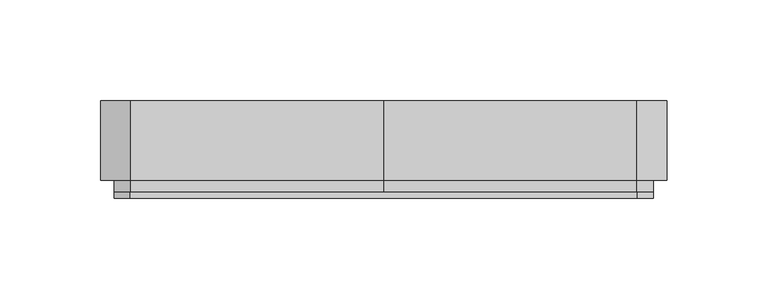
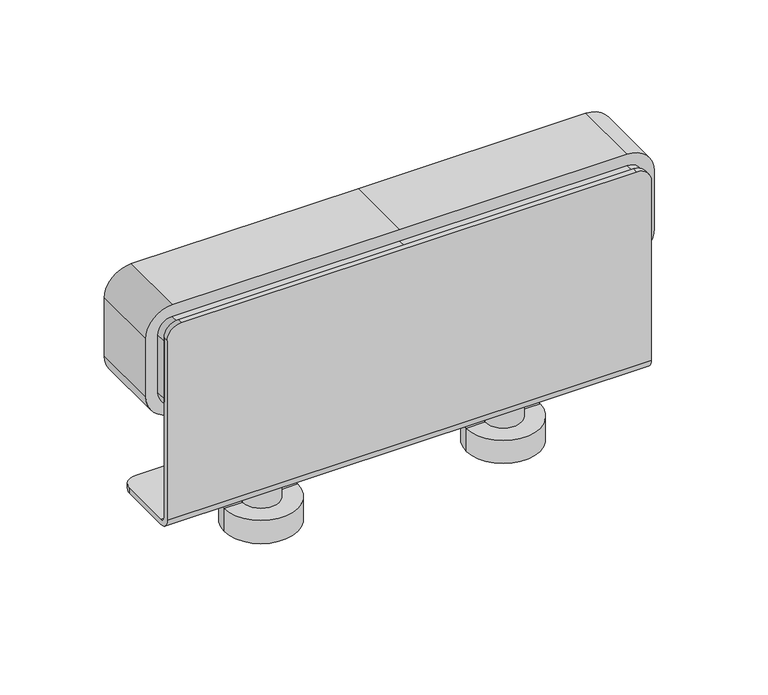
"""IFC4 building model written with IfcOpenShell, lengths in millimetres: furniture geometry, Vitra-Joyn_2-Accesories_rfa : Joyn 2 Platform - Electrification, solo."""

from ifc_helpers import new_model, si_unit, point, frame, frame_2d, origin, place, context, project, spatial, polyline, circle_curve, trimmed, segment, composite_curve, outline, extrude, source, transform, mapped, element, save
from ifc_brep_helpers import plane_surface, cylinder_surface, revolved_surface, advanced_brep


def furniture_e0e3dfeb(model_context):
    return source(origin(), model_context, "Body", "SolidModel", [
        extrude(outline(polyline([(177.9796973, 90.6843759), (377.9796993, 90.6843759), (377.9796993, 55.684397), (177.9796973, 55.684397), (177.9796973, 90.6843759)])), frame((0.0, 0.0, 739.9999723), z_axis=(0.0, 0.0, 1.0), x_axis=(1.0, 0.0, 0.0)), (0.0, 0.0, 1.0), 10.0000356),
        advanced_brep(
        [(367.0007033, 78.6835203, 655.3000053), (387.3492033, 78.6835203, 655.3000053), (346.6522033, 78.6835203, 655.3000053), (381.5213563, 78.6835203, 715.0000053), (367.0007033, 78.6835203, 715.0000053), (352.4800503, 78.6835203, 715.0000053), (381.5213563, 78.6835203, 708.0000045), (352.4800503, 78.6835203, 708.0000045), (372.0210053, 78.6835203, 708.0000045), (361.9804013, 78.6835203, 708.0000045), (372.0210053, 78.6835203, 678.8000005), (372.0210053, 78.6835203, 690.800008), (361.9804013, 78.6835203, 690.800008), (361.9804013, 78.6835203, 678.8000005), (377.0213583, 78.6835203, 678.8000005), (356.9800483, 78.6835203, 678.8000005), (377.0213583, 78.6835203, 668.800006), (356.9800483, 78.6835203, 668.800006), (387.3492033, 78.6835203, 668.800006), (346.6522033, 78.6835203, 668.800006), (372.0210053, 78.6835203, 698.2999738), (361.9804013, 78.6835203, 698.2999738), (375.5209973, 78.6835203, 698.2999738), (358.4804093, 78.6835203, 698.2999738), (375.5209973, 78.6835203, 690.800008), (358.4804093, 78.6835203, 690.800008)],
        [
            (0, 1),
            (1, 2, circle_curve(frame((367.0007033, 78.6835203, 655.3000053), z_axis=(0.0, 0.0, -1.0), x_axis=(-1.0, 0.0, 0.0)), 20.3485)),
            (2, 0),
            (2, 1, circle_curve(frame((367.0007033, 78.6835203, 655.3000053), z_axis=(0.0, 0.0, -1.0), x_axis=(-1.0, 0.0, 0.0)), 20.3485)),
            (3, 4),
            (4, 5),
            (5, 3, circle_curve(frame((367.0007033, 78.6835203, 715.0000053), z_axis=(0.0, 0.0, 1.0), x_axis=(-1.0, 0.0, 0.0)), 14.520653)),
            (3, 5, circle_curve(frame((367.0007033, 78.6835203, 715.0000053), z_axis=(0.0, 0.0, 1.0), x_axis=(-1.0, 0.0, 0.0)), 14.520653)),
            (6, 3),
            (5, 7),
            (7, 6, circle_curve(frame((367.0007033, 78.6835203, 708.0000045), z_axis=(0.0, 0.0, 1.0), x_axis=(-1.0, 0.0, 0.0)), 14.520653)),
            (6, 7, circle_curve(frame((367.0007033, 78.6835203, 708.0000045), z_axis=(0.0, 0.0, 1.0), x_axis=(-1.0, 0.0, 0.0)), 14.520653)),
            (8, 6),
            (7, 9),
            (9, 8, circle_curve(frame((367.0007033, 78.6835203, 708.0000045), z_axis=(0.0, 0.0, 1.0), x_axis=(-1.0, 0.0, 0.0)), 5.020302)),
            (8, 9, circle_curve(frame((367.0007033, 78.6835203, 708.0000045), z_axis=(0.0, 0.0, 1.0), x_axis=(-1.0, 0.0, 0.0)), 5.020302)),
            (10, 11),
            (11, 12, circle_curve(frame((367.0007033, 78.6835203, 690.800008), z_axis=(0.0, 0.0, -1.0), x_axis=(-1.0, 0.0, 0.0)), 5.020302)),
            (12, 13),
            (13, 10, circle_curve(frame((367.0007033, 78.6835203, 678.8000005), z_axis=(0.0, 0.0, 1.0), x_axis=(-1.0, 0.0, 0.0)), 5.020302)),
            (12, 11, circle_curve(frame((367.0007033, 78.6835203, 690.800008), z_axis=(0.0, 0.0, -1.0), x_axis=(-1.0, 0.0, 0.0)), 5.020302)),
            (10, 13, circle_curve(frame((367.0007033, 78.6835203, 678.8000005), z_axis=(0.0, 0.0, 1.0), x_axis=(-1.0, 0.0, 0.0)), 5.020302)),
            (14, 10),
            (13, 15),
            (15, 14, circle_curve(frame((367.0007033, 78.6835203, 678.8000005), z_axis=(0.0, 0.0, 1.0), x_axis=(-1.0, 0.0, 0.0)), 10.020655)),
            (14, 15, circle_curve(frame((367.0007033, 78.6835203, 678.8000005), z_axis=(0.0, 0.0, 1.0), x_axis=(-1.0, 0.0, 0.0)), 10.020655)),
            (16, 14),
            (15, 17),
            (17, 16, circle_curve(frame((367.0007033, 78.6835203, 668.800006), z_axis=(0.0, 0.0, 1.0), x_axis=(-1.0, 0.0, 0.0)), 10.020655)),
            (16, 17, circle_curve(frame((367.0007033, 78.6835203, 668.800006), z_axis=(0.0, 0.0, 1.0), x_axis=(-1.0, 0.0, 0.0)), 10.020655)),
            (18, 16),
            (17, 19),
            (19, 18, circle_curve(frame((367.0007033, 78.6835203, 668.800006), z_axis=(0.0, 0.0, 1.0), x_axis=(-1.0, 0.0, 0.0)), 20.3485)),
            (18, 19, circle_curve(frame((367.0007033, 78.6835203, 668.800006), z_axis=(0.0, 0.0, 1.0), x_axis=(-1.0, 0.0, 0.0)), 20.3485)),
            (1, 18),
            (19, 2),
            (20, 8),
            (9, 21),
            (21, 20, circle_curve(frame((367.0007033, 78.6835203, 698.2999738), z_axis=(0.0, 0.0, 1.0), x_axis=(-1.0, 0.0, 0.0)), 5.020302)),
            (20, 21, circle_curve(frame((367.0007033, 78.6835203, 698.2999738), z_axis=(0.0, 0.0, 1.0), x_axis=(-1.0, 0.0, 0.0)), 5.020302)),
            (22, 20),
            (21, 23),
            (23, 22, circle_curve(frame((367.0007033, 78.6835203, 698.2999738), z_axis=(0.0, 0.0, 1.0), x_axis=(-1.0, 0.0, 0.0)), 8.520294)),
            (22, 23, circle_curve(frame((367.0007033, 78.6835203, 698.2999738), z_axis=(0.0, 0.0, 1.0), x_axis=(-1.0, 0.0, 0.0)), 8.520294)),
            (24, 22),
            (23, 25),
            (25, 24, circle_curve(frame((367.0007033, 78.6835203, 690.800008), z_axis=(0.0, 0.0, 1.0), x_axis=(-1.0, 0.0, 0.0)), 8.520294)),
            (24, 25, circle_curve(frame((367.0007033, 78.6835203, 690.800008), z_axis=(0.0, 0.0, 1.0), x_axis=(-1.0, 0.0, 0.0)), 8.520294)),
            (11, 24),
            (25, 12),
        ],
        [
            plane_surface(frame((367.0007033, 78.6835203, 655.3000053), z_axis=(0.0, 0.0, -1.0), x_axis=(-1.0, 0.0, 0.0))),
            plane_surface(frame((367.0007033, 78.6835203, 715.0000053), z_axis=(0.0, 0.0, 1.0), x_axis=(-1.0, 0.0, 0.0))),
            cylinder_surface(frame((367.0007033, 78.6835203, 715.0000053), z_axis=(0.0, 0.0, -1.0), x_axis=(-1.0, 0.0, 0.0)), 14.520653),
            plane_surface(frame((367.0007033, 78.6835203, 708.0000045), z_axis=(0.0, 0.0, -1.0), x_axis=(-1.0, 0.0, 0.0))),
            cylinder_surface(frame((367.0007033, 78.6835203, 715.0000053), z_axis=(0.0, 0.0, -1.0), x_axis=(-1.0, 0.0, 0.0)), 5.020302),
            plane_surface(frame((367.0007033, 78.6835203, 678.8000005), z_axis=(0.0, 0.0, 1.0), x_axis=(-1.0, 0.0, 0.0))),
            cylinder_surface(frame((367.0007033, 78.6835203, 715.0000053), z_axis=(0.0, 0.0, -1.0), x_axis=(-1.0, 0.0, 0.0)), 10.020655),
            plane_surface(frame((367.0007033, 78.6835203, 668.800006), z_axis=(0.0, 0.0, 1.0), x_axis=(-1.0, 0.0, 0.0))),
            cylinder_surface(frame((367.0007033, 78.6835203, 715.0000053), z_axis=(0.0, 0.0, -1.0), x_axis=(-1.0, 0.0, 0.0)), 20.3485),
            plane_surface(frame((367.0007033, 78.6835203, 698.2999738), z_axis=(0.0, 0.0, 1.0), x_axis=(-1.0, 0.0, 0.0))),
            cylinder_surface(frame((367.0007033, 78.6835203, 715.0000053), z_axis=(0.0, 0.0, -1.0), x_axis=(-1.0, 0.0, 0.0)), 8.520294),
            plane_surface(frame((367.0007033, 78.6835203, 690.800008), z_axis=(0.0, 0.0, -1.0), x_axis=(-1.0, 0.0, 0.0))),
        ],
        [
            (0, [[1, 2, 3]]),
            (0, [[-3, 4, -1]]),
            (1, [[5, 6, 7]]),
            (1, [[-6, -5, 8]]),
            (2, [[9, -7, 10, 11]]),
            (2, [[-10, -8, -9, 12]]),
            (3, [[13, -11, 14, 15]]),
            (3, [[-14, -12, -13, 16]]),
            (4, [[17, 18, 19, 20]]),
            (4, [[-19, 21, -17, 22]]),
            (5, [[23, -20, 24, 25]]),
            (5, [[-24, -22, -23, 26]]),
            (6, [[27, -25, 28, 29]]),
            (6, [[-28, -26, -27, 30]]),
            (7, [[31, -29, 32, 33]]),
            (7, [[-32, -30, -31, 34]]),
            (8, [[35, -33, 36, -2]]),
            (8, [[-36, -34, -35, -4]]),
            (4, [[37, -15, 38, 39]]),
            (4, [[-38, -16, -37, 40]]),
            (9, [[41, -39, 42, 43]]),
            (9, [[-42, -40, -41, 44]]),
            (10, [[45, -43, 46, 47]]),
            (10, [[-46, -44, -45, 48]]),
            (11, [[49, -47, 50, -18]]),
            (11, [[-50, -48, -49, -21]]),
        ],
    ),
        advanced_brep(
        [(233.0000013, 78.6835203, 655.3000053), (253.3485013, 78.6835203, 655.3000053), (212.6515013, 78.6835203, 655.3000053), (247.5206543, 78.6835203, 715.0000053), (233.0000013, 78.6835203, 715.0000053), (218.4793483, 78.6835203, 715.0000053), (247.5206543, 78.6835203, 708.0000045), (218.4793483, 78.6835203, 708.0000045), (238.0203033, 78.6835203, 708.0000045), (227.9796993, 78.6835203, 708.0000045), (238.0203033, 78.6835203, 678.8000005), (238.0203033, 78.6835203, 690.800008), (227.9796993, 78.6835203, 690.800008), (227.9796993, 78.6835203, 678.8000005), (243.0206563, 78.6835203, 678.8000005), (222.9793463, 78.6835203, 678.8000005), (243.0206563, 78.6835203, 668.800006), (222.9793463, 78.6835203, 668.800006), (253.3485013, 78.6835203, 668.800006), (212.6515013, 78.6835203, 668.800006), (238.0203033, 78.6835203, 698.2999738), (227.9796993, 78.6835203, 698.2999738), (241.5202953, 78.6835203, 698.2999738), (224.4797073, 78.6835203, 698.2999738), (241.5202953, 78.6835203, 690.800008), (224.4797073, 78.6835203, 690.800008)],
        [
            (0, 1),
            (1, 2, circle_curve(frame((233.0000013, 78.6835203, 655.3000053), z_axis=(0.0, 0.0, -1.0), x_axis=(-1.0, 0.0, 0.0)), 20.3485)),
            (2, 0),
            (2, 1, circle_curve(frame((233.0000013, 78.6835203, 655.3000053), z_axis=(0.0, 0.0, -1.0), x_axis=(-1.0, 0.0, 0.0)), 20.3485)),
            (3, 4),
            (4, 5),
            (5, 3, circle_curve(frame((233.0000013, 78.6835203, 715.0000053), z_axis=(0.0, 0.0, 1.0), x_axis=(-1.0, 0.0, 0.0)), 14.520653)),
            (3, 5, circle_curve(frame((233.0000013, 78.6835203, 715.0000053), z_axis=(0.0, 0.0, 1.0), x_axis=(-1.0, 0.0, 0.0)), 14.520653)),
            (6, 3),
            (5, 7),
            (7, 6, circle_curve(frame((233.0000013, 78.6835203, 708.0000045), z_axis=(0.0, 0.0, 1.0), x_axis=(-1.0, 0.0, 0.0)), 14.520653)),
            (6, 7, circle_curve(frame((233.0000013, 78.6835203, 708.0000045), z_axis=(0.0, 0.0, 1.0), x_axis=(-1.0, 0.0, 0.0)), 14.520653)),
            (8, 6),
            (7, 9),
            (9, 8, circle_curve(frame((233.0000013, 78.6835203, 708.0000045), z_axis=(0.0, 0.0, 1.0), x_axis=(-1.0, 0.0, 0.0)), 5.020302)),
            (8, 9, circle_curve(frame((233.0000013, 78.6835203, 708.0000045), z_axis=(0.0, 0.0, 1.0), x_axis=(-1.0, 0.0, 0.0)), 5.020302)),
            (10, 11),
            (11, 12, circle_curve(frame((233.0000013, 78.6835203, 690.800008), z_axis=(0.0, 0.0, -1.0), x_axis=(-1.0, 0.0, 0.0)), 5.020302)),
            (12, 13),
            (13, 10, circle_curve(frame((233.0000013, 78.6835203, 678.8000005), z_axis=(0.0, 0.0, 1.0), x_axis=(-1.0, 0.0, 0.0)), 5.020302)),
            (12, 11, circle_curve(frame((233.0000013, 78.6835203, 690.800008), z_axis=(0.0, 0.0, -1.0), x_axis=(-1.0, 0.0, 0.0)), 5.020302)),
            (10, 13, circle_curve(frame((233.0000013, 78.6835203, 678.8000005), z_axis=(0.0, 0.0, 1.0), x_axis=(-1.0, 0.0, 0.0)), 5.020302)),
            (14, 10),
            (13, 15),
            (15, 14, circle_curve(frame((233.0000013, 78.6835203, 678.8000005), z_axis=(0.0, 0.0, 1.0), x_axis=(-1.0, 0.0, 0.0)), 10.020655)),
            (14, 15, circle_curve(frame((233.0000013, 78.6835203, 678.8000005), z_axis=(0.0, 0.0, 1.0), x_axis=(-1.0, 0.0, 0.0)), 10.020655)),
            (16, 14),
            (15, 17),
            (17, 16, circle_curve(frame((233.0000013, 78.6835203, 668.800006), z_axis=(0.0, 0.0, 1.0), x_axis=(-1.0, 0.0, 0.0)), 10.020655)),
            (16, 17, circle_curve(frame((233.0000013, 78.6835203, 668.800006), z_axis=(0.0, 0.0, 1.0), x_axis=(-1.0, 0.0, 0.0)), 10.020655)),
            (18, 16),
            (17, 19),
            (19, 18, circle_curve(frame((233.0000013, 78.6835203, 668.800006), z_axis=(0.0, 0.0, 1.0), x_axis=(-1.0, 0.0, 0.0)), 20.3485)),
            (18, 19, circle_curve(frame((233.0000013, 78.6835203, 668.800006), z_axis=(0.0, 0.0, 1.0), x_axis=(-1.0, 0.0, 0.0)), 20.3485)),
            (1, 18),
            (19, 2),
            (20, 8),
            (9, 21),
            (21, 20, circle_curve(frame((233.0000013, 78.6835203, 698.2999738), z_axis=(0.0, 0.0, 1.0), x_axis=(-1.0, 0.0, 0.0)), 5.020302)),
            (20, 21, circle_curve(frame((233.0000013, 78.6835203, 698.2999738), z_axis=(0.0, 0.0, 1.0), x_axis=(-1.0, 0.0, 0.0)), 5.020302)),
            (22, 20),
            (21, 23),
            (23, 22, circle_curve(frame((233.0000013, 78.6835203, 698.2999738), z_axis=(0.0, 0.0, 1.0), x_axis=(-1.0, 0.0, 0.0)), 8.520294)),
            (22, 23, circle_curve(frame((233.0000013, 78.6835203, 698.2999738), z_axis=(0.0, 0.0, 1.0), x_axis=(-1.0, 0.0, 0.0)), 8.520294)),
            (24, 22),
            (23, 25),
            (25, 24, circle_curve(frame((233.0000013, 78.6835203, 690.800008), z_axis=(0.0, 0.0, 1.0), x_axis=(-1.0, 0.0, 0.0)), 8.520294)),
            (24, 25, circle_curve(frame((233.0000013, 78.6835203, 690.800008), z_axis=(0.0, 0.0, 1.0), x_axis=(-1.0, 0.0, 0.0)), 8.520294)),
            (11, 24),
            (25, 12),
        ],
        [
            plane_surface(frame((233.0000013, 78.6835203, 655.3000053), z_axis=(0.0, 0.0, -1.0), x_axis=(-1.0, 0.0, 0.0))),
            plane_surface(frame((233.0000013, 78.6835203, 715.0000053), z_axis=(0.0, 0.0, 1.0), x_axis=(-1.0, 0.0, 0.0))),
            cylinder_surface(frame((233.0000013, 78.6835203, 715.0000053), z_axis=(0.0, 0.0, -1.0), x_axis=(-1.0, 0.0, 0.0)), 14.520653),
            plane_surface(frame((233.0000013, 78.6835203, 708.0000045), z_axis=(0.0, 0.0, -1.0), x_axis=(-1.0, 0.0, 0.0))),
            cylinder_surface(frame((233.0000013, 78.6835203, 715.0000053), z_axis=(0.0, 0.0, -1.0), x_axis=(-1.0, 0.0, 0.0)), 5.020302),
            plane_surface(frame((233.0000013, 78.6835203, 678.8000005), z_axis=(0.0, 0.0, 1.0), x_axis=(-1.0, 0.0, 0.0))),
            cylinder_surface(frame((233.0000013, 78.6835203, 715.0000053), z_axis=(0.0, 0.0, -1.0), x_axis=(-1.0, 0.0, 0.0)), 10.020655),
            plane_surface(frame((233.0000013, 78.6835203, 668.800006), z_axis=(0.0, 0.0, 1.0), x_axis=(-1.0, 0.0, 0.0))),
            cylinder_surface(frame((233.0000013, 78.6835203, 715.0000053), z_axis=(0.0, 0.0, -1.0), x_axis=(-1.0, 0.0, 0.0)), 20.3485),
            plane_surface(frame((233.0000013, 78.6835203, 698.2999738), z_axis=(0.0, 0.0, 1.0), x_axis=(-1.0, 0.0, 0.0))),
            cylinder_surface(frame((233.0000013, 78.6835203, 715.0000053), z_axis=(0.0, 0.0, -1.0), x_axis=(-1.0, 0.0, 0.0)), 8.520294),
            plane_surface(frame((233.0000013, 78.6835203, 690.800008), z_axis=(0.0, 0.0, -1.0), x_axis=(-1.0, 0.0, 0.0))),
        ],
        [
            (0, [[1, 2, 3]]),
            (0, [[-3, 4, -1]]),
            (1, [[5, 6, 7]]),
            (1, [[-6, -5, 8]]),
            (2, [[9, -7, 10, 11]]),
            (2, [[-10, -8, -9, 12]]),
            (3, [[13, -11, 14, 15]]),
            (3, [[-14, -12, -13, 16]]),
            (4, [[17, 18, 19, 20]]),
            (4, [[-19, 21, -17, 22]]),
            (5, [[23, -20, 24, 25]]),
            (5, [[-24, -22, -23, 26]]),
            (6, [[27, -25, 28, 29]]),
            (6, [[-28, -26, -27, 30]]),
            (7, [[31, -29, 32, 33]]),
            (7, [[-32, -30, -31, 34]]),
            (8, [[35, -33, 36, -2]]),
            (8, [[-36, -34, -35, -4]]),
            (4, [[37, -15, 38, 39]]),
            (4, [[-38, -16, -37, 40]]),
            (9, [[41, -39, 42, 43]]),
            (9, [[-42, -40, -41, 44]]),
            (10, [[45, -43, 46, 47]]),
            (10, [[-46, -44, -45, 48]]),
            (11, [[49, -47, 50, -18]]),
            (11, [[-50, -48, -49, -21]]),
        ],
    ),
        extrude(outline(composite_curve([segment(trimmed(circle_curve(frame_2d((762.9499881, 174.1703073)), 8.0), [point((762.9499881, 166.1703073))], [point((754.9499881, 174.1703073))], False, "CARTESIAN"), True, "CONTINUOUS"), segment(polyline([(754.9499881, 174.1703073), (754.9499881, 300.0202973), (754.9499881, 425.8702873)]), True, "CONTINUOUS"), segment(trimmed(circle_curve(frame_2d((762.9499881, 425.8702873)), 8.0), [point((754.9499881, 425.8702873))], [point((762.9499881, 433.8702873))], False, "CARTESIAN"), True, "CONTINUOUS"), segment(polyline([(762.9499881, 433.8702873), (797.0499903, 433.8702873)]), True, "CONTINUOUS"), segment(trimmed(circle_curve(frame_2d((797.0499903, 425.8702873)), 8.0), [point((797.0499903, 433.8702873))], [point((805.0499903, 425.8702873))], False, "CARTESIAN"), True, "CONTINUOUS"), segment(polyline([(805.0499903, 425.8702873), (805.0499903, 300.0202973), (805.0499903, 174.1703073)]), True, "CONTINUOUS"), segment(trimmed(circle_curve(frame_2d((797.0499903, 174.1703073)), 8.0), [point((805.0499903, 174.1703073))], [point((797.0499903, 166.1703073))], False, "CARTESIAN"), True, "CONTINUOUS"), segment(polyline([(797.0499903, 166.1703073), (762.9499881, 166.1703073)]), True, "CONTINUOUS")], self_intersect=False)), frame((0.0, 55.684397, 0.0), z_axis=(0.0, 1.0, 0.0), x_axis=(0.0, 0.0, 1.0)), (0.0, 0.0, 1.0), 5.9099649),
        advanced_brep(
        [(159.3297049, 101.0943742, 796.8500077), (174.3297049, 101.0943742, 811.8500077), (300.0202973, 101.0943742, 811.8500077), (425.7108897, 101.0943742, 811.8500077), (440.7108897, 101.0943742, 796.8500077), (440.7108897, 101.0943742, 763.1499901), (425.7108897, 101.0943742, 748.1499901), (300.0202973, 101.0943742, 748.1499901), (174.3297049, 101.0943742, 748.1499901), (159.3297049, 101.0943742, 763.1499901), (256.9815333, 101.0943742, 780.0000067), (216.9777133, 101.0943742, 780.0000067), (298.8954904, 101.0943742, 780.0000067), (258.8916704, 101.0943742, 780.0000067), (340.8954904, 101.0943742, 780.0000067), (300.8916704, 101.0943742, 780.0000067), (382.8954904, 101.0943742, 780.0000067), (342.8916704, 101.0943742, 780.0000067), (159.3297049, 61.5943619, 796.8500077), (159.3297049, 61.5943619, 763.1499901), (174.3297049, 61.5943619, 748.1499901), (300.0202973, 61.5943619, 748.1499901), (425.7108897, 61.5943619, 748.1499901), (440.7108897, 61.5943619, 763.1499901), (440.7108897, 61.5943619, 796.8500077), (425.7108897, 61.5943619, 811.8500077), (300.0202973, 61.5943619, 811.8500077), (174.3297049, 61.5943619, 811.8500077), (216.9777133, 83.2919435, 780.0000067), (256.9815333, 83.2919435, 780.0000067), (258.8916704, 83.2919435, 780.0000067), (298.8954904, 83.2919435, 780.0000067), (300.8916704, 83.2919435, 780.0000067), (340.8954904, 83.2919435, 780.0000067), (342.8916704, 83.2919435, 780.0000067), (382.8954904, 83.2919435, 780.0000067)],
        [
            (0, 1, circle_curve(frame((174.3297049, 101.0943742, 796.8500077), z_axis=(0.0, 1.0, 0.0), x_axis=(1.0, 0.0, 0.0)), 15.0)),
            (1, 2),
            (2, 3),
            (3, 4, circle_curve(frame((425.7108897, 101.0943742, 796.8500077), z_axis=(0.0, 1.0, 0.0), x_axis=(-1.0, 0.0, 0.0)), 15.0)),
            (4, 5),
            (5, 6, circle_curve(frame((425.7108897, 101.0943742, 763.1499901), z_axis=(0.0, 1.0, 0.0), x_axis=(-1.0, 0.0, 0.0)), 15.0)),
            (6, 7),
            (7, 8),
            (8, 9, circle_curve(frame((174.3297049, 101.0943742, 763.1499901), z_axis=(0.0, 1.0, 0.0), x_axis=(1.0, 0.0, 0.0)), 15.0)),
            (9, 0),
            (10, 11, circle_curve(frame((236.9796233, 101.0943742, 780.0000067), z_axis=(0.0, -1.0, 0.0), x_axis=(1.0, 0.0, 0.0)), 20.00191)),
            (11, 10, circle_curve(frame((236.9796233, 101.0943742, 780.0000067), z_axis=(0.0, -1.0, 0.0), x_axis=(1.0, 0.0, 0.0)), 20.00191)),
            (12, 13, circle_curve(frame((278.8935804, 101.0943742, 780.0000067), z_axis=(0.0, -1.0, 0.0), x_axis=(1.0, 0.0, 0.0)), 20.00191)),
            (13, 12, circle_curve(frame((278.8935804, 101.0943742, 780.0000067), z_axis=(0.0, -1.0, 0.0), x_axis=(1.0, 0.0, 0.0)), 20.00191)),
            (14, 15, circle_curve(frame((320.8935804, 101.0943742, 780.0000067), z_axis=(0.0, -1.0, 0.0), x_axis=(1.0, 0.0, 0.0)), 20.00191)),
            (15, 14, circle_curve(frame((320.8935804, 101.0943742, 780.0000067), z_axis=(0.0, -1.0, 0.0), x_axis=(1.0, 0.0, 0.0)), 20.00191)),
            (16, 17, circle_curve(frame((362.8935804, 101.0943742, 780.0000067), z_axis=(0.0, -1.0, 0.0), x_axis=(1.0, 0.0, 0.0)), 20.00191)),
            (17, 16, circle_curve(frame((362.8935804, 101.0943742, 780.0000067), z_axis=(0.0, -1.0, 0.0), x_axis=(1.0, 0.0, 0.0)), 20.00191)),
            (18, 19),
            (19, 20, circle_curve(frame((174.3297049, 61.5943619, 763.1499901), z_axis=(0.0, -1.0, 0.0), x_axis=(1.0, 0.0, 0.0)), 15.0)),
            (20, 21),
            (21, 22),
            (22, 23, circle_curve(frame((425.7108897, 61.5943619, 763.1499901), z_axis=(0.0, -1.0, 0.0), x_axis=(-1.0, 0.0, 0.0)), 15.0)),
            (23, 24),
            (24, 25, circle_curve(frame((425.7108897, 61.5943619, 796.8500077), z_axis=(0.0, -1.0, 0.0), x_axis=(-1.0, 0.0, 0.0)), 15.0)),
            (25, 26),
            (26, 27),
            (27, 18, circle_curve(frame((174.3297049, 61.5943619, 796.8500077), z_axis=(0.0, -1.0, 0.0), x_axis=(1.0, 0.0, 0.0)), 15.0)),
            (9, 19),
            (18, 0),
            (8, 20),
            (7, 21),
            (6, 22),
            (5, 23),
            (4, 24),
            (3, 25),
            (2, 26),
            (1, 27),
            (28, 29, circle_curve(frame((236.9796233, 83.2919435, 780.0000067), z_axis=(0.0, 1.0, 0.0), x_axis=(1.0, 0.0, 0.0)), 20.00191)),
            (29, 28, circle_curve(frame((236.9796233, 83.2919435, 780.0000067), z_axis=(0.0, 1.0, 0.0), x_axis=(1.0, 0.0, 0.0)), 20.00191)),
            (30, 31, circle_curve(frame((278.8935804, 83.2919435, 780.0000067), z_axis=(0.0, 1.0, 0.0), x_axis=(1.0, 0.0, 0.0)), 20.00191)),
            (31, 30, circle_curve(frame((278.8935804, 83.2919435, 780.0000067), z_axis=(0.0, 1.0, 0.0), x_axis=(1.0, 0.0, 0.0)), 20.00191)),
            (32, 33, circle_curve(frame((320.8935804, 83.2919435, 780.0000067), z_axis=(0.0, 1.0, 0.0), x_axis=(1.0, 0.0, 0.0)), 20.00191)),
            (33, 32, circle_curve(frame((320.8935804, 83.2919435, 780.0000067), z_axis=(0.0, 1.0, 0.0), x_axis=(1.0, 0.0, 0.0)), 20.00191)),
            (34, 35, circle_curve(frame((362.8935804, 83.2919435, 780.0000067), z_axis=(0.0, 1.0, 0.0), x_axis=(1.0, 0.0, 0.0)), 20.00191)),
            (35, 34, circle_curve(frame((362.8935804, 83.2919435, 780.0000067), z_axis=(0.0, 1.0, 0.0), x_axis=(1.0, 0.0, 0.0)), 20.00191)),
            (29, 10),
            (11, 28),
            (31, 12),
            (13, 30),
            (33, 14),
            (15, 32),
            (35, 16),
            (17, 34),
        ],
        [
            plane_surface(frame((159.3297049, 101.0943742, 763.1500094), z_axis=(0.0, 1.0, 0.0), x_axis=(0.0, 0.0, -1.0))),
            plane_surface(frame((159.3297049, 61.5943619, 763.1500094), z_axis=(0.0, -1.0, 0.0), x_axis=(0.0, 0.0, 1.0))),
            plane_surface(frame((159.3297049, 101.0943742, 796.8500077), z_axis=(-1.0, 0.0, 0.0), x_axis=(0.0, -1.0, 0.0))),
            cylinder_surface(frame((174.3297049, 61.5943619, 763.1499901), z_axis=(0.0, 1.0, 0.0), x_axis=(1.0, 0.0, 0.0)), 15.0),
            plane_surface(frame((174.3297049, 101.0943742, 748.1499901), z_axis=(0.0, 0.0, -1.0), x_axis=(0.0, -1.0, 0.0))),
            plane_surface(frame((300.0202973, 101.0943742, 748.1499901), z_axis=(0.0, 0.0, -1.0), x_axis=(0.0, -1.0, 0.0))),
            cylinder_surface(frame((425.7108897, 61.5943619, 763.1499901), z_axis=(0.0, 1.0, 0.0), x_axis=(-1.0, 0.0, 0.0)), 15.0),
            plane_surface(frame((440.7108897, 101.0943742, 763.1499901), z_axis=(1.0, 0.0, 0.0), x_axis=(0.0, -1.0, 0.0))),
            cylinder_surface(frame((425.7108897, 61.5943619, 796.8500077), z_axis=(0.0, 1.0, 0.0), x_axis=(-1.0, 0.0, 0.0)), 15.0),
            plane_surface(frame((425.7108897, 101.0943742, 811.8500077), z_axis=(0.0, 0.0, 1.0), x_axis=(0.0, -1.0, 0.0))),
            plane_surface(frame((300.0202973, 101.0943742, 811.8500077), z_axis=(0.0, 0.0, 1.0), x_axis=(0.0, -1.0, 0.0))),
            cylinder_surface(frame((174.3297049, 61.5943619, 796.8500077), z_axis=(0.0, 1.0, 0.0), x_axis=(1.0, 0.0, 0.0)), 15.0),
            plane_surface(frame((256.9815333, 83.2919435, 780.0000067), z_axis=(0.0, 1.0, 0.0), x_axis=(0.0, 0.0, -1.0))),
            revolved_surface(polyline([(256.98153329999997, 101.0943742, 780.0000067), (256.98153329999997, 83.2919435, 780.0000067)]), (236.9796233, 83.2919435, 780.0000067), (0.0, 1.0, 0.0)),
            revolved_surface(polyline([(298.8954904, 101.0943742, 780.0000067), (298.8954904, 83.2919435, 780.0000067)]), (278.8935804, 0.0, 780.0000067), (0.0, 1.0, 0.0)),
            revolved_surface(polyline([(340.8954904, 101.0943742, 780.0000067), (340.8954904, 83.2919435, 780.0000067)]), (320.8935804, 0.0, 780.0000067), (0.0, 1.0, 0.0)),
            revolved_surface(polyline([(382.8954904, 101.0943742, 780.0000067), (382.8954904, 83.2919435, 780.0000067)]), (362.8935804, 0.0, 780.0000067), (0.0, 1.0, 0.0)),
        ],
        [
            (0, [[1, 2, 3, 4, 5, 6, 7, 8, 9, 10], [11, 12], [13, 14], [15, 16], [17, 18]]),
            (1, [[19, 20, 21, 22, 23, 24, 25, 26, 27, 28]]),
            (2, [[29, -19, 30, -10]]),
            (3, [[31, -20, -29, -9]]),
            (4, [[32, -21, -31, -8]]),
            (5, [[33, -22, -32, -7]]),
            (6, [[34, -23, -33, -6]]),
            (7, [[35, -24, -34, -5]]),
            (8, [[36, -25, -35, -4]]),
            (9, [[37, -26, -36, -3]]),
            (10, [[38, -27, -37, -2]]),
            (11, [[-30, -28, -38, -1]]),
            (12, [[39, 40]]),
            (12, [[41, 42]]),
            (12, [[43, 44]]),
            (12, [[45, 46]]),
            (13, [[47, -12, 48, -40]]),
            (13, [[-48, -11, -47, -39]]),
            (14, [[49, -14, 50, -42]]),
            (14, [[-50, -13, -49, -41]]),
            (15, [[51, -16, 52, -44]]),
            (15, [[-52, -15, -51, -43]]),
            (16, [[53, -18, 54, -46]]),
            (16, [[-54, -17, -53, -45]]),
        ],
    ),
        advanced_brep(
        [(433.9202973, 55.684397, 693.800008), (433.9202973, 55.684397, 798.7999994), (433.9202973, 52.684397, 798.7999994), (433.9202973, 52.684397, 693.800008), (433.9202973, 58.684397, 687.800008), (433.9202973, 88.6843976, 687.800008), (433.9202973, 88.6843976, 690.800008), (433.9202973, 58.684397, 690.800008), (166.1202973, 52.684397, 693.800008), (166.1202973, 52.684397, 798.7999994), (166.1202973, 55.684397, 798.7999994), (166.1202973, 55.684397, 693.800008), (166.1202973, 58.684397, 690.800008), (166.1202973, 88.6843976, 690.800008), (166.1202973, 88.6843976, 687.800008), (166.1202973, 58.684397, 687.800008), (174.1202973, 55.684397, 806.7999994), (425.9202973, 55.684397, 806.7999994), (425.9202973, 96.6843976, 690.800008), (174.1202973, 96.6843976, 690.800008), (174.1202973, 96.6843976, 687.800008), (425.9202973, 96.6843976, 687.800008), (425.9202973, 52.684397, 806.7999994), (174.1202973, 52.684397, 806.7999994)],
        [
            (0, 1),
            (1, 2),
            (2, 3),
            (3, 4, circle_curve(frame((433.9202973, 58.684397, 693.800008), z_axis=(1.0, 0.0, 0.0), x_axis=(0.0, 1.0, 0.0)), 6.0)),
            (4, 5),
            (5, 6),
            (6, 7),
            (7, 0, circle_curve(frame((433.9202973, 58.684397, 693.800008), z_axis=(-1.0, 0.0, 0.0), x_axis=(0.0, 1.0, 0.0)), 3.0)),
            (8, 9),
            (9, 10),
            (10, 11),
            (11, 12, circle_curve(frame((166.1202973, 58.684397, 693.800008), z_axis=(1.0, 0.0, 0.0), x_axis=(0.0, 1.0, 0.0)), 3.0)),
            (12, 13),
            (13, 14),
            (14, 15),
            (15, 8, circle_curve(frame((166.1202973, 58.684397, 693.800008), z_axis=(-1.0, 0.0, 0.0), x_axis=(0.0, 1.0, 0.0)), 6.0)),
            (10, 16, circle_curve(frame((174.1202973, 55.684397, 798.7999994), z_axis=(0.0, 1.0, 0.0), x_axis=(1.0, 0.0, 0.0)), 8.0)),
            (16, 17),
            (17, 1, circle_curve(frame((425.9202973, 55.684397, 798.7999994), z_axis=(0.0, 1.0, 0.0), x_axis=(1.0, 0.0, 0.0)), 8.0)),
            (0, 11),
            (7, 12),
            (6, 18, circle_curve(frame((425.9202973, 88.6843976, 690.800008), z_axis=(0.0, 0.0, 1.0), x_axis=(1.0, 0.0, 0.0)), 8.0)),
            (18, 19),
            (19, 13, circle_curve(frame((174.1202973, 88.6843976, 690.800008), z_axis=(0.0, 0.0, 1.0), x_axis=(1.0, 0.0, 0.0)), 8.0)),
            (4, 15),
            (14, 20, circle_curve(frame((174.1202973, 88.6843976, 687.800008), z_axis=(0.0, 0.0, -1.0), x_axis=(1.0, 0.0, 0.0)), 8.0)),
            (20, 21),
            (21, 5, circle_curve(frame((425.9202973, 88.6843976, 687.800008), z_axis=(0.0, 0.0, -1.0), x_axis=(1.0, 0.0, 0.0)), 8.0)),
            (3, 8),
            (2, 22, circle_curve(frame((425.9202973, 52.684397, 798.7999994), z_axis=(0.0, -1.0, 0.0), x_axis=(1.0, 0.0, 0.0)), 8.0)),
            (22, 23),
            (23, 9, circle_curve(frame((174.1202973, 52.684397, 798.7999994), z_axis=(0.0, -1.0, 0.0), x_axis=(1.0, 0.0, 0.0)), 8.0)),
            (17, 22),
            (16, 23),
            (19, 20),
            (18, 21),
        ],
        [
            plane_surface(frame((433.9202973, 55.684397, 693.8), z_axis=(1.0, 0.0, 0.0), x_axis=(0.0, 0.0, -1.0))),
            plane_surface(frame((166.1202973, 55.684397, 693.8), z_axis=(-1.0, 0.0, 0.0), x_axis=(0.0, 0.0, 1.0))),
            plane_surface(frame((433.9202973, 55.684397, 747.3000037), z_axis=(0.0, 1.0, 0.0), x_axis=(-1.0, 0.0, 0.0))),
            revolved_surface(polyline([(166.1202973, 61.684397, 693.800008), (433.9202973, 61.684397, 693.800008)]), (166.1202973, 58.684397, 693.800008), (-1.0, 0.0, 0.0)),
            plane_surface(frame((433.9202973, 58.684397, 690.800008), z_axis=(0.0, 0.0, 1.0), x_axis=(-1.0, 0.0, 0.0))),
            plane_surface(frame((433.9202973, 74.6843973, 687.800008), z_axis=(0.0, 0.0, -1.0), x_axis=(-1.0, 0.0, 0.0))),
            cylinder_surface(frame((166.1202973, 58.684397, 693.800008), z_axis=(1.0, 0.0, 0.0), x_axis=(0.0, 1.0, 0.0)), 6.0),
            plane_surface(frame((433.9202973, 52.684397, 693.800008), z_axis=(0.0, -1.0, 0.0), x_axis=(-1.0, 0.0, 0.0))),
            cylinder_surface(frame((425.9202973, 52.684397, 798.7999994), z_axis=(0.0, 1.0, 0.0), x_axis=(1.0, 0.0, 0.0)), 8.0),
            plane_surface(frame((425.9202973, 55.684397, 806.7999994), z_axis=(0.0, 0.0, 1.0), x_axis=(0.0, -1.0, 0.0))),
            cylinder_surface(frame((174.1202973, 52.684397, 798.7999994), z_axis=(0.0, 1.0, 0.0), x_axis=(1.0, 0.0, 0.0)), 8.0),
            cylinder_surface(frame((174.1202973, 88.6843976, 687.800008), z_axis=(0.0, 0.0, 1.0), x_axis=(1.0, 0.0, 0.0)), 8.0),
            plane_surface(frame((174.1202973, 96.6843976, 690.800008), z_axis=(0.0, 1.0, 0.0), x_axis=(0.0, 0.0, -1.0))),
            cylinder_surface(frame((425.9202973, 88.6843976, 687.800008), z_axis=(0.0, 0.0, 1.0), x_axis=(1.0, 0.0, 0.0)), 8.0),
        ],
        [
            (0, [[1, 2, 3, 4, 5, 6, 7, 8]]),
            (1, [[9, 10, 11, 12, 13, 14, 15, 16]]),
            (2, [[-11, 17, 18, 19, -1, 20]]),
            (3, [[21, -12, -20, -8]]),
            (4, [[22, 23, 24, -13, -21, -7]]),
            (5, [[25, -15, 26, 27, 28, -5]]),
            (6, [[29, -16, -25, -4]]),
            (7, [[-3, 30, 31, 32, -9, -29]]),
            (8, [[33, -30, -2, -19]]),
            (9, [[34, -31, -33, -18]]),
            (10, [[-10, -32, -34, -17]]),
            (11, [[35, -26, -14, -24]]),
            (12, [[36, -27, -35, -23]]),
            (13, [[-6, -28, -36, -22]]),
        ],
    ),
    ])


if __name__ == "__main__":
    model = new_model("IFC4")
    model_context = context("Model", 3, world=origin())
    ifc_project = project(units=[si_unit("LENGTHUNIT", "METRE", prefix="MILLI")], contexts=[model_context])
    site = spatial("IfcSite", under=ifc_project)
    building = spatial("IfcBuilding", under=site)
    placement = place(None, origin())
    furniture_shape = furniture_e0e3dfeb(model_context)
    element("IfcFurniture", 1, ObjectType="Vitra-Joyn_2-Accesories_rfa : Joyn 2 Platform - Electrification, solo", at=placement, inside=building, context=model_context, shape_type="MappedRepresentation", body=[
        mapped(furniture_shape, transform((0.0, 0.0, 0.0), x_axis=(1.0, 0.0, 0.0), y_axis=(0.0, 1.0, 0.0), z_axis=(0.0, 0.0, 1.0))),
    ])
    save(model, "model.ifc")
